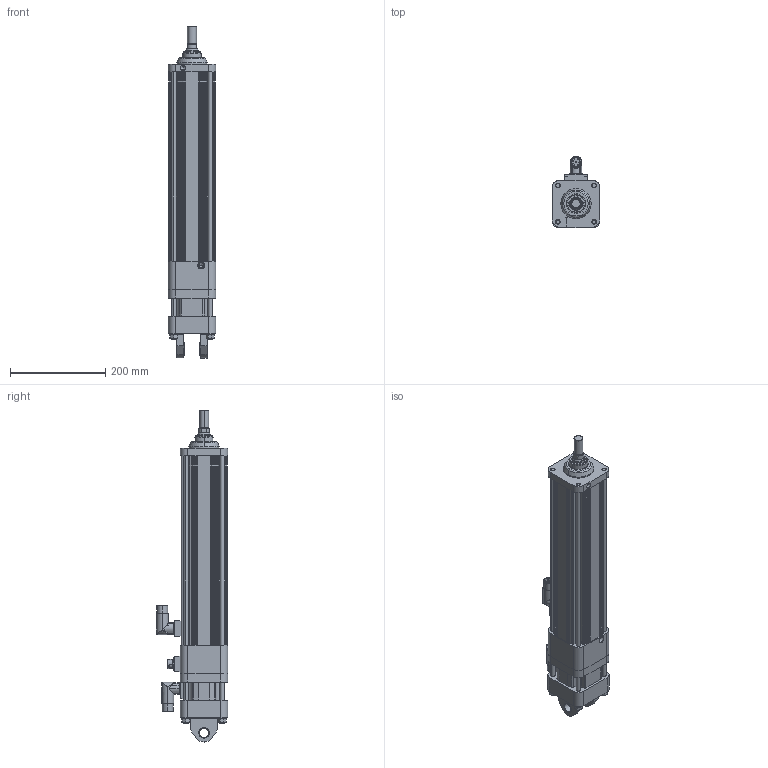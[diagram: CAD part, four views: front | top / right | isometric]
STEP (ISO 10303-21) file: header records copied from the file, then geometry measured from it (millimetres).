
FILE_DESCRIPTION (( 'STEP AP203' ), '1' );
FILE_NAME ('GSX40 – 12 inch, Clevis, euro conn, A rod,RB,ABSOLUTE.step', '2007-08-20T09:02:40', ( '' ), ( '' ), 'SwSTEP 2.0', 'SolidWorks 2007', '' );
FILE_SCHEMA (( 'CONFIG_CONTROL_DESIGN' ));
Products named in the file (21): 14604; MAIN ROD_A-MAIN ROD-12"; 23017; 20728_12 INCH; 19021; 19819; GSX40 – 12 inch, Clevis, euro conn, A rod,RB,ABSOLUTE; CASE-GSX40_30911-12"; Ball 14604; 14604 Ret; 30929; END CAP-RB_30765; 30917; 11028; 20494; 33609; TIEROD_26409-12"; 11587; 12248; 14781
Assembly tree (45 placements, depth 3):
  GSX40 – 12 inch, Clevis, euro conn, A rod,RB,ABSOLUTE
    12248  x4
    11587  x4
    14604  x2
      Ball 14604
      14604 Ret
      14604
    30917
    TIEROD_26409-12"  x4
    33609
    20728_12 INCH
    CASE-GSX40_30911-12"
    20494
    MAIN ROD_A-MAIN ROD-12"
    19819
    14781  x2
    19021
    23017
    30929
    END CAP-RB_30765
    11028
Bounding box: 99.06 x 149.49 x 695.87 mm (x, y, z)
Volume: 2486813 mm3; surface area: 851340.3 mm2
Topology: 62 solids, 62 shells, 1525 faces, 4011 edges, 2531 vertices
Faces by surface type: cylinder 767, plane 381, cone 211, torus 90, sphere 76
Entity records: 45697 total; most frequent: CARTESIAN_POINT 10853, DIRECTION 7141, ORIENTED_EDGE 6370, EDGE_CURVE 3185, AXIS2_PLACEMENT_3D 2875, VERTEX_POINT 2053, EDGE_LOOP 1550, CIRCLE 1547
